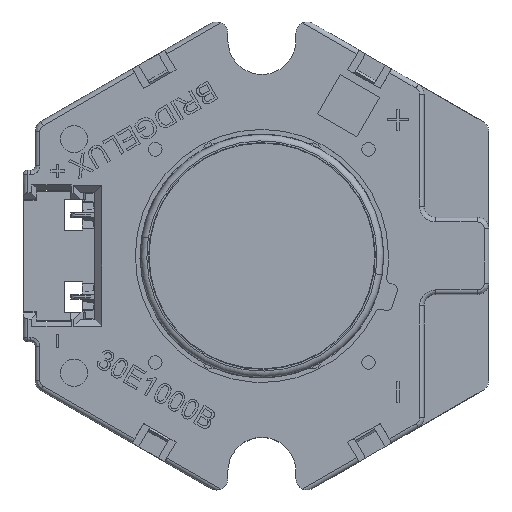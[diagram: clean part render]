
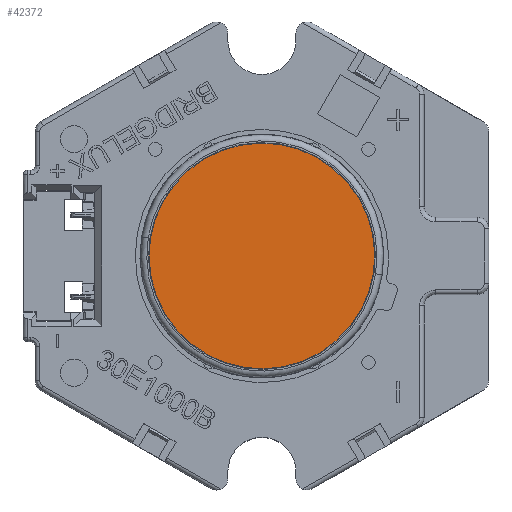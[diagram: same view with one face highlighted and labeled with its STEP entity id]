
A CAD part, top view. The second image highlights one B-rep face of the part: STEP entity #42372.
In plain terms, the highlighted planar face has unit normal (0, 0, 1).
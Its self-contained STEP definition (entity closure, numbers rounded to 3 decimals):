
#1214 = DIRECTION ( 'NONE',  ( 0., 0., 1. ) ) ;
#5605 = DIRECTION ( 'NONE',  ( 0., 0., 1. ) ) ;
#9115 = EDGE_CURVE ( 'NONE', #22808, #12564, #30749, .T. ) ;
#9150 = CARTESIAN_POINT ( 'NONE',  ( -4.915, 0.772, 1.7 ) ) ;
#10420 = CARTESIAN_POINT ( 'NONE',  ( 0., 0., 1.7 ) ) ;
#12347 = FACE_OUTER_BOUND ( 'NONE', #13976, .T. ) ;
#12564 = VERTEX_POINT ( 'NONE', #42030 ) ;
#12584 = AXIS2_PLACEMENT_3D ( 'NONE', #21583, #1214, #24966 ) ;
#12896 = AXIS2_PLACEMENT_3D ( 'NONE', #10420, #34070, #13840 ) ;
#13840 = DIRECTION ( 'NONE',  ( 0.988, -0.155, 0. ) ) ;
#13976 = EDGE_LOOP ( 'NONE', ( #33489, #41464 ) ) ;
#21583 = CARTESIAN_POINT ( 'NONE',  ( 0., 0., 1.7 ) ) ;
#22808 = VERTEX_POINT ( 'NONE', #9150 ) ;
#24966 = DIRECTION ( 'NONE',  ( 0.988, -0.155, 0. ) ) ;
#25915 = CARTESIAN_POINT ( 'NONE',  ( 0., 0., 1.7 ) ) ;
#29289 = DIRECTION ( 'NONE',  ( 0.988, -0.155, 0. ) ) ;
#30749 = CIRCLE ( 'NONE', #12584, 4.975 ) ;
#33489 = ORIENTED_EDGE ( 'NONE', *, *, #9115, .T. ) ;
#34070 = DIRECTION ( 'NONE',  ( 0., 0., 1. ) ) ;
#35995 = CIRCLE ( 'NONE', #43514, 4.975 ) ;
#40805 = PLANE ( 'NONE',  #12896 ) ;
#41464 = ORIENTED_EDGE ( 'NONE', *, *, #43264, .T. ) ;
#42030 = CARTESIAN_POINT ( 'NONE',  ( 4.915, -0.772, 1.7 ) ) ;
#42372 = ADVANCED_FACE ( 'NONE', ( #12347 ), #40805, .T. ) ;
#43264 = EDGE_CURVE ( 'NONE', #12564, #22808, #35995, .T. ) ;
#43514 = AXIS2_PLACEMENT_3D ( 'NONE', #25915, #5605, #29289 ) ;
